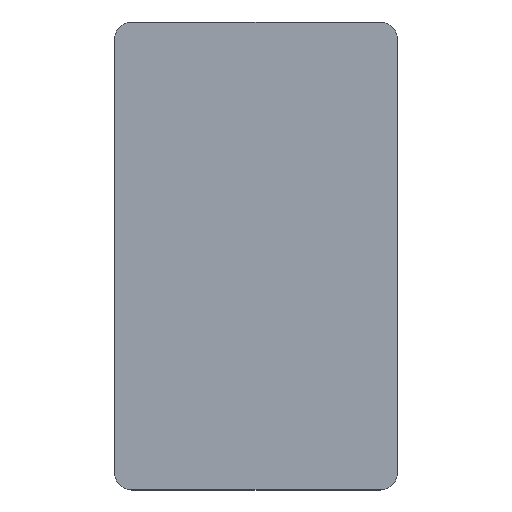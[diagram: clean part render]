
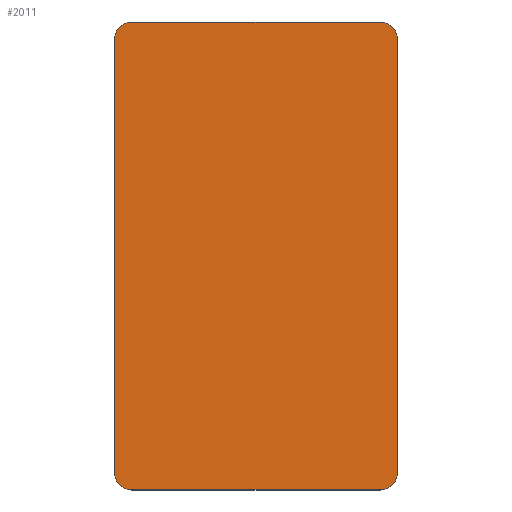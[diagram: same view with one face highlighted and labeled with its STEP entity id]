
A CAD part, top view. The second image highlights one B-rep face of the part: STEP entity #2011.
In plain terms, the highlighted planar face has unit normal (0, 0, 1).
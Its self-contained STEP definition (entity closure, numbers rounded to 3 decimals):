
#368=CARTESIAN_POINT('',(-57.,-99.5,0.));
#369=DIRECTION('',(0.,0.,1.));
#370=DIRECTION('',(-1.,0.,0.));
#371=AXIS2_PLACEMENT_3D('',#368,#369,#370);
#373=DIRECTION('',(0.,1.,0.));
#374=VECTOR('',#373,199.);
#375=CARTESIAN_POINT('',(-65.,-99.5,0.));
#376=LINE('',#375,#374);
#377=CARTESIAN_POINT('',(-57.,99.5,0.));
#378=DIRECTION('',(0.,0.,1.));
#379=DIRECTION('',(0.,1.,0.));
#380=AXIS2_PLACEMENT_3D('',#377,#378,#379);
#382=DIRECTION('',(1.,0.,0.));
#383=VECTOR('',#382,114.);
#384=CARTESIAN_POINT('',(-57.,107.5,0.));
#385=LINE('',#384,#383);
#386=CARTESIAN_POINT('',(57.,99.5,0.));
#387=DIRECTION('',(0.,0.,1.));
#388=DIRECTION('',(1.,0.,0.));
#389=AXIS2_PLACEMENT_3D('',#386,#387,#388);
#391=DIRECTION('',(0.,-1.,0.));
#392=VECTOR('',#391,199.);
#393=CARTESIAN_POINT('',(65.,99.5,0.));
#394=LINE('',#393,#392);
#395=CARTESIAN_POINT('',(57.,-99.5,0.));
#396=DIRECTION('',(0.,0.,1.));
#397=DIRECTION('',(0.,-1.,0.));
#398=AXIS2_PLACEMENT_3D('',#395,#396,#397);
#400=DIRECTION('',(-1.,0.,0.));
#401=VECTOR('',#400,114.);
#402=CARTESIAN_POINT('',(57.,-107.5,0.));
#403=LINE('',#402,#401);
#1210=CARTESIAN_POINT('',(-65.,-99.5,0.));
#1211=CARTESIAN_POINT('',(-57.,-107.5,0.));
#1212=VERTEX_POINT('',#1210);
#1213=VERTEX_POINT('',#1211);
#1214=CARTESIAN_POINT('',(-57.,107.5,0.));
#1215=CARTESIAN_POINT('',(-65.,99.5,0.));
#1216=VERTEX_POINT('',#1214);
#1217=VERTEX_POINT('',#1215);
#1218=CARTESIAN_POINT('',(65.,99.5,0.));
#1219=CARTESIAN_POINT('',(57.,107.5,0.));
#1220=VERTEX_POINT('',#1218);
#1221=VERTEX_POINT('',#1219);
#1222=CARTESIAN_POINT('',(57.,-107.5,0.));
#1223=CARTESIAN_POINT('',(65.,-99.5,0.));
#1224=VERTEX_POINT('',#1222);
#1225=VERTEX_POINT('',#1223);
#1996=CARTESIAN_POINT('',(0.,0.,0.));
#1997=DIRECTION('',(0.,0.,-1.));
#1998=DIRECTION('',(1.,0.,0.));
#1999=AXIS2_PLACEMENT_3D('',#1996,#1997,#1998);
#2000=PLANE('',#1999);
#2001=ORIENTED_EDGE('',*,*,#1990,.F.);
#2002=ORIENTED_EDGE('',*,*,#1892,.T.);
#2003=ORIENTED_EDGE('',*,*,#1907,.F.);
#2004=ORIENTED_EDGE('',*,*,#1921,.T.);
#2005=ORIENTED_EDGE('',*,*,#1935,.F.);
#2006=ORIENTED_EDGE('',*,*,#1949,.T.);
#2007=ORIENTED_EDGE('',*,*,#1963,.F.);
#2008=ORIENTED_EDGE('',*,*,#1977,.T.);
#2009=EDGE_LOOP('',(#2001,#2002,#2003,#2004,#2005,#2006,#2007,#2008));
#2010=FACE_OUTER_BOUND('',#2009,.F.);
#2011=ADVANCED_FACE('',(#2010),#2000,.F.);
#372=CIRCLE('',#371,8.);
#381=CIRCLE('',#380,8.);
#390=CIRCLE('',#389,8.);
#399=CIRCLE('',#398,8.);
#1892=EDGE_CURVE('',#1212,#1217,#376,.T.);
#1907=EDGE_CURVE('',#1216,#1217,#381,.T.);
#1921=EDGE_CURVE('',#1216,#1221,#385,.T.);
#1935=EDGE_CURVE('',#1220,#1221,#390,.T.);
#1949=EDGE_CURVE('',#1220,#1225,#394,.T.);
#1963=EDGE_CURVE('',#1224,#1225,#399,.T.);
#1977=EDGE_CURVE('',#1224,#1213,#403,.T.);
#1990=EDGE_CURVE('',#1212,#1213,#372,.T.);
